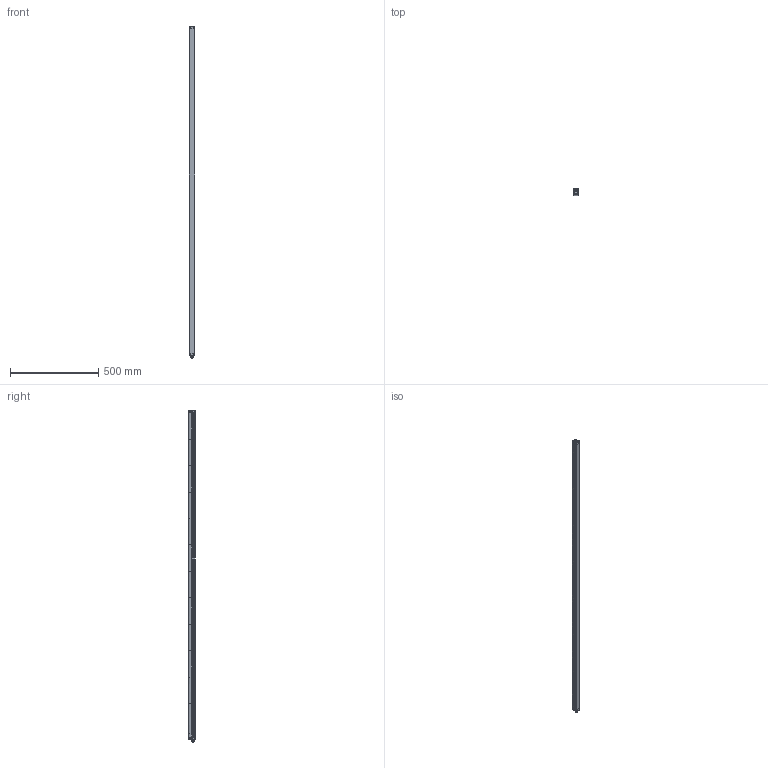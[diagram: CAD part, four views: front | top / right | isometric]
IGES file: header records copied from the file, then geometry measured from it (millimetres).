
Global section: file name: D:\Studi\DSD-0168.igs; preprocessor: I-DEAS 3D IGES Translator 11; date: 20080609.124832; units: millimetre
Bounding box: 32.3 x 36.9 x 1883.34 mm (x, y, z)
Volume: 1900875.2 mm3; surface area: 436793.9 mm2
Topology: 12 solids, 12 shells, 1642 faces, 6385 edges, 5214 vertices
Faces by surface type: bspline 1642
